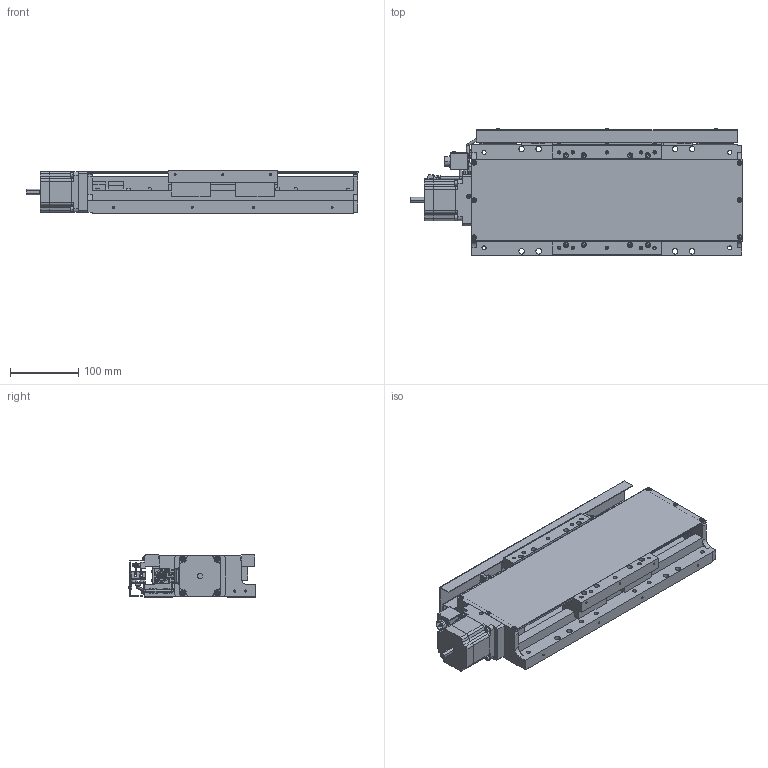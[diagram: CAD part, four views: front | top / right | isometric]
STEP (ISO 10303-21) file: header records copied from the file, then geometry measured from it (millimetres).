
FILE_DESCRIPTION (( 'STEP AP203' ), '1' );
FILE_NAME ('XA16F-L2201-R.STEP', '2019-02-20T08:02:38', ( '' ), ( '' ), 'SwSTEP 2.0', 'SolidWorks 2018', '' );
FILE_SCHEMA (( 'CONFIG_CONTROL_DESIGN' ));
Length unit declared in the file: millimetre
Products named in the file (3): table; base; XA16F-L2201-R
Assembly tree (2 placements, depth 2):
  XA16F-L2201-R
    table
    base
Bounding box: 486.5 x 185.89 x 62 mm (x, y, z)
Volume: 2151301.7 mm3; surface area: 531620.6 mm2
Topology: 2 solids, 6 shells, 2638 faces, 6473 edges, 3988 vertices
Faces by surface type: plane 1531, cylinder 673, cone 346, torus 36, sphere 32, bspline 20
Entity records: 78049 total; most frequent: CARTESIAN_POINT 14499, DIRECTION 13686, ORIENTED_EDGE 12742, EDGE_CURVE 6371, AXIS2_PLACEMENT_3D 4829, LINE 4028, VECTOR 4028, VERTEX_POINT 3988
